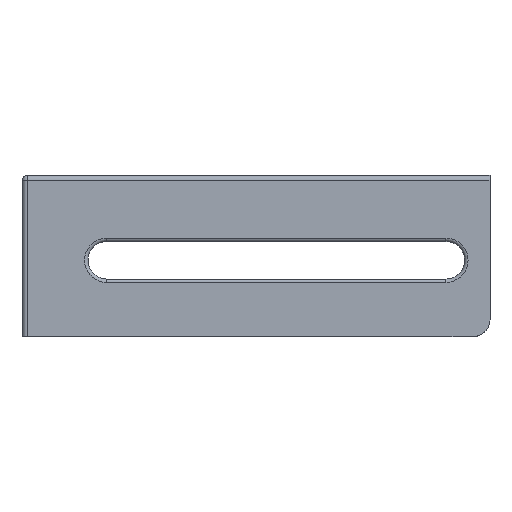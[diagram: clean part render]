
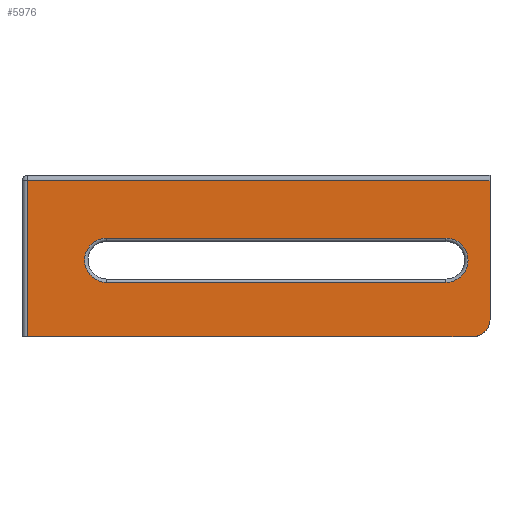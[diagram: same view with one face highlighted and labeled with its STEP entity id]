
A CAD part, front view. The second image highlights one B-rep face of the part: STEP entity #5976.
In plain terms, the highlighted planar face has unit normal (0, -1, 0).
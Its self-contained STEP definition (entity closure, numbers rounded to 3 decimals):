
#326 = CARTESIAN_POINT ( 'NONE',  ( 250., 0., -36.925 ) ) ;
#512 = CARTESIAN_POINT ( 'NONE',  ( 50., 0., -63.075 ) ) ;
#578 = DIRECTION ( 'NONE',  ( 0., 0., -1. ) ) ;
#856 = VERTEX_POINT ( 'NONE', #12005 ) ;
#892 = FACE_BOUND ( 'NONE', #18316, .T. ) ;
#942 = ORIENTED_EDGE ( 'NONE', *, *, #5245, .T. ) ;
#971 = CARTESIAN_POINT ( 'NONE',  ( 50., 0., -63.075 ) ) ;
#1287 = DIRECTION ( 'NONE',  ( 0., -1., 0. ) ) ;
#1637 = VECTOR ( 'NONE', #2230, 1000. ) ;
#1695 = EDGE_CURVE ( 'NONE', #17785, #25231, #21637, .T. ) ;
#2088 = CARTESIAN_POINT ( 'NONE',  ( 276., 0., -95. ) ) ;
#2212 = DIRECTION ( 'NONE',  ( 0., 0., -1. ) ) ;
#2230 = DIRECTION ( 'NONE',  ( 0., 0., 1. ) ) ;
#2271 = VECTOR ( 'NONE', #6891, 1000. ) ;
#2913 = PLANE ( 'NONE',  #23226 ) ;
#3057 = DIRECTION ( 'NONE',  ( 0., 0., -1. ) ) ;
#3191 = CARTESIAN_POINT ( 'NONE',  ( 0., 0., -95. ) ) ;
#3879 = EDGE_LOOP ( 'NONE', ( #19678, #15688, #13198, #15910, #12114 ) ) ;
#4026 = EDGE_CURVE ( 'NONE', #18016, #9895, #13685, .T. ) ;
#5245 = EDGE_CURVE ( 'NONE', #13097, #18016, #10836, .T. ) ;
#5976 = ADVANCED_FACE ( 'NONE', ( #892, #23639 ), #2913, .T. ) ;
#6129 = CARTESIAN_POINT ( 'NONE',  ( 0., 0., -3. ) ) ;
#6375 = DIRECTION ( 'NONE',  ( 0., -1., 0. ) ) ;
#6640 = LINE ( 'NONE', #971, #26416 ) ;
#6696 = DIRECTION ( 'NONE',  ( 0., 1., 0. ) ) ;
#6891 = DIRECTION ( 'NONE',  ( 1., 0., 0. ) ) ;
#7246 = EDGE_CURVE ( 'NONE', #856, #7730, #22402, .T. ) ;
#7574 = LINE ( 'NONE', #18299, #18149 ) ;
#7730 = VERTEX_POINT ( 'NONE', #13384 ) ;
#7972 = EDGE_CURVE ( 'NONE', #16277, #13097, #8282, .T. ) ;
#8202 = CIRCLE ( 'NONE', #26812, 10. ) ;
#8282 = CIRCLE ( 'NONE', #21729, 13.075 ) ;
#8555 = LINE ( 'NONE', #2088, #1637 ) ;
#9404 = ORIENTED_EDGE ( 'NONE', *, *, #4026, .T. ) ;
#9847 = CARTESIAN_POINT ( 'NONE',  ( 276., 0., -85. ) ) ;
#9895 = VERTEX_POINT ( 'NONE', #10587 ) ;
#10587 = CARTESIAN_POINT ( 'NONE',  ( 250., 0., -63.075 ) ) ;
#10836 = LINE ( 'NONE', #23446, #2271 ) ;
#12005 = CARTESIAN_POINT ( 'NONE',  ( 276., 0., -3. ) ) ;
#12114 = ORIENTED_EDGE ( 'NONE', *, *, #13941, .T. ) ;
#12121 = ORIENTED_EDGE ( 'NONE', *, *, #26025, .T. ) ;
#12379 = AXIS2_PLACEMENT_3D ( 'NONE', #25089, #16447, #2212 ) ;
#12640 = CARTESIAN_POINT ( 'NONE',  ( 266., 0., -85. ) ) ;
#13097 = VERTEX_POINT ( 'NONE', #21945 ) ;
#13198 = ORIENTED_EDGE ( 'NONE', *, *, #1695, .T. ) ;
#13384 = CARTESIAN_POINT ( 'NONE',  ( 3., 0., -3. ) ) ;
#13650 = CARTESIAN_POINT ( 'NONE',  ( 0., 0., -95. ) ) ;
#13685 = CIRCLE ( 'NONE', #12379, 13.075 ) ;
#13941 = EDGE_CURVE ( 'NONE', #15975, #856, #8555, .T. ) ;
#13980 = DIRECTION ( 'NONE',  ( 0., 0., -1. ) ) ;
#15688 = ORIENTED_EDGE ( 'NONE', *, *, #19558, .T. ) ;
#15910 = ORIENTED_EDGE ( 'NONE', *, *, #17503, .T. ) ;
#15972 = CARTESIAN_POINT ( 'NONE',  ( 266., 0., -95. ) ) ;
#15975 = VERTEX_POINT ( 'NONE', #9847 ) ;
#16277 = VERTEX_POINT ( 'NONE', #512 ) ;
#16447 = DIRECTION ( 'NONE',  ( 0., 1., 0. ) ) ;
#17147 = DIRECTION ( 'NONE',  ( 0., 0., -1. ) ) ;
#17190 = VECTOR ( 'NONE', #21368, 1000. ) ;
#17503 = EDGE_CURVE ( 'NONE', #25231, #15975, #8202, .T. ) ;
#17785 = VERTEX_POINT ( 'NONE', #23647 ) ;
#18016 = VERTEX_POINT ( 'NONE', #326 ) ;
#18149 = VECTOR ( 'NONE', #13980, 1000. ) ;
#18299 = CARTESIAN_POINT ( 'NONE',  ( 3., 0., -95. ) ) ;
#18316 = EDGE_LOOP ( 'NONE', ( #12121, #21360, #942, #9404 ) ) ;
#19558 = EDGE_CURVE ( 'NONE', #7730, #17785, #7574, .T. ) ;
#19678 = ORIENTED_EDGE ( 'NONE', *, *, #7246, .T. ) ;
#20765 = DIRECTION ( 'NONE',  ( -1., 0., 0. ) ) ;
#21256 = VECTOR ( 'NONE', #20765, 1000. ) ;
#21360 = ORIENTED_EDGE ( 'NONE', *, *, #7972, .T. ) ;
#21368 = DIRECTION ( 'NONE',  ( 1., 0., 0. ) ) ;
#21637 = LINE ( 'NONE', #13650, #17190 ) ;
#21729 = AXIS2_PLACEMENT_3D ( 'NONE', #25142, #6696, #17147 ) ;
#21945 = CARTESIAN_POINT ( 'NONE',  ( 50., 0., -36.925 ) ) ;
#22402 = LINE ( 'NONE', #6129, #21256 ) ;
#23226 = AXIS2_PLACEMENT_3D ( 'NONE', #3191, #1287, #3057 ) ;
#23306 = DIRECTION ( 'NONE',  ( -1., 0., 0. ) ) ;
#23446 = CARTESIAN_POINT ( 'NONE',  ( 250., 0., -36.925 ) ) ;
#23639 = FACE_OUTER_BOUND ( 'NONE', #3879, .T. ) ;
#23647 = CARTESIAN_POINT ( 'NONE',  ( 3., 0., -95. ) ) ;
#25089 = CARTESIAN_POINT ( 'NONE',  ( 250., 0., -50. ) ) ;
#25142 = CARTESIAN_POINT ( 'NONE',  ( 50., 0., -50. ) ) ;
#25231 = VERTEX_POINT ( 'NONE', #15972 ) ;
#26025 = EDGE_CURVE ( 'NONE', #9895, #16277, #6640, .T. ) ;
#26416 = VECTOR ( 'NONE', #23306, 1000. ) ;
#26812 = AXIS2_PLACEMENT_3D ( 'NONE', #12640, #6375, #578 ) ;
